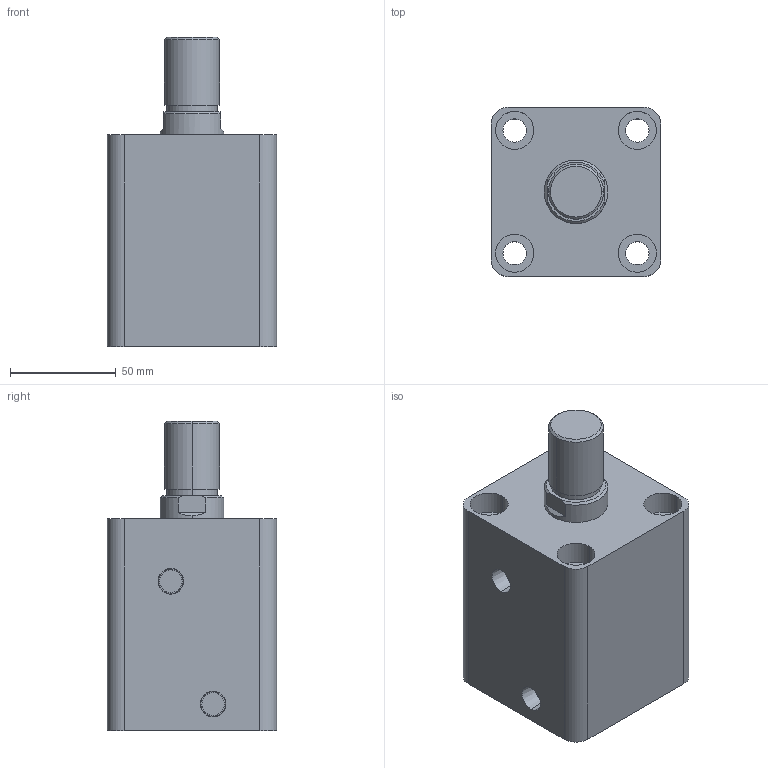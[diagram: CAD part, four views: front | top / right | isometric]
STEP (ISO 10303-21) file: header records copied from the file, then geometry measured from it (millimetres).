
FILE_DESCRIPTION (( 'STEP AP203' ), '1' );
FILE_NAME ('HTB-SD50-40W.STEP', '2019-10-07T07:09:01', ( '微软用户' ), ( '微软中国' ), 'SwSTEP 2.0', 'SolidWorks 2012', '' );
FILE_SCHEMA (( 'CONFIG_CONTROL_DESIGN' ));
Length unit declared in the file: millimetre
Products named in the file (3): HTB-SD50-40W; HTB-SD50-40W活塞杆; HTB-SD50-40掛极
Assembly tree (2 placements, depth 2):
  HTB-SD50-40W
    HTB-SD50-40掛极
    HTB-SD50-40W活塞杆
Bounding box: 80 x 80 x 146 mm (x, y, z)
Volume: 555601.8 mm3; surface area: 91346.2 mm2
Topology: 2 solids, 2 shells, 87 faces, 190 edges, 124 vertices
Faces by surface type: cylinder 44, plane 29, cone 8, torus 6
Entity records: 2761 total; most frequent: DIRECTION 478, CARTESIAN_POINT 434, ORIENTED_EDGE 380, AXIS2_PLACEMENT_3D 204, EDGE_CURVE 190, VERTEX_POINT 124, EDGE_LOOP 112, CIRCLE 112
